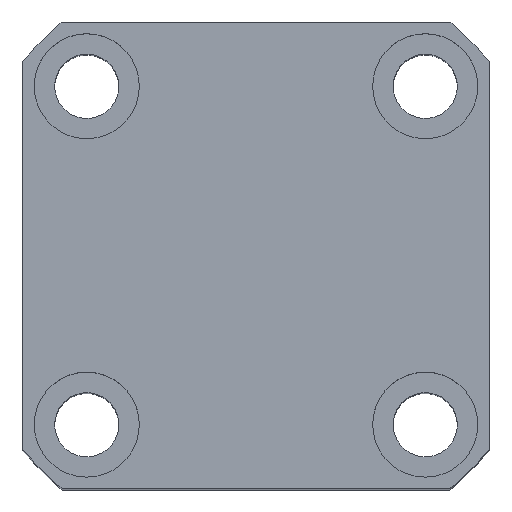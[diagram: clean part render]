
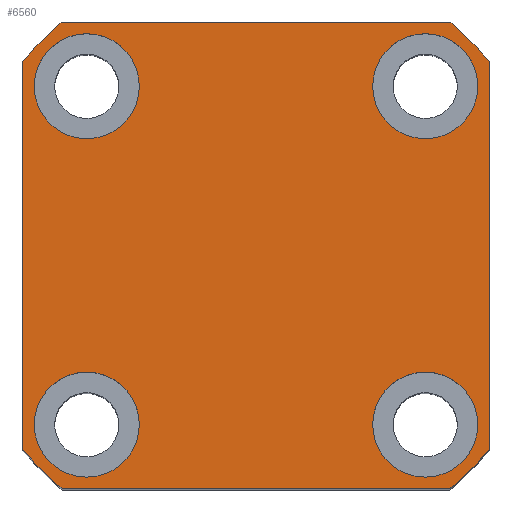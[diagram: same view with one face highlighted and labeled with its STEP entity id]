
A CAD part, top view. The second image highlights one B-rep face of the part: STEP entity #6560.
In plain terms, the highlighted planar face has unit normal (0, 0, 1).
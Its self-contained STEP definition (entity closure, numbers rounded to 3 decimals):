
#206 = CARTESIAN_POINT ( 'NONE',  ( 0., 0., 57.5 ) ) ;
#246 = DIRECTION ( 'NONE',  ( 0., 0., 1. ) ) ;
#478 = AXIS2_PLACEMENT_3D ( 'NONE', #13182, #2920, #1972 ) ;
#479 = CIRCLE ( 'NONE', #13220, 52. ) ;
#620 = FACE_BOUND ( 'NONE', #3268, .T. ) ;
#827 = DIRECTION ( 'NONE',  ( 0., 0., 1. ) ) ;
#836 = DIRECTION ( 'NONE',  ( 0., 1., 0. ) ) ;
#853 = EDGE_CURVE ( 'NONE', #4415, #10526, #5849, .T. ) ;
#887 = DIRECTION ( 'NONE',  ( 0., 0., 1. ) ) ;
#918 = CARTESIAN_POINT ( 'NONE',  ( -33.226, -40., 57.5 ) ) ;
#964 = AXIS2_PLACEMENT_3D ( 'NONE', #7793, #10047, #11201 ) ;
#1031 = DIRECTION ( 'NONE',  ( 1., 0., 0. ) ) ;
#1055 = DIRECTION ( 'NONE',  ( 0., 0., 1. ) ) ;
#1068 = ORIENTED_EDGE ( 'NONE', *, *, #9822, .T. ) ;
#1159 = CIRCLE ( 'NONE', #5074, 9. ) ;
#1192 = ORIENTED_EDGE ( 'NONE', *, *, #2466, .F. ) ;
#1413 = EDGE_CURVE ( 'NONE', #13089, #4244, #8016, .T. ) ;
#1620 = DIRECTION ( 'NONE',  ( 1., 0., 0. ) ) ;
#1632 = DIRECTION ( 'NONE',  ( 0., 0., 1. ) ) ;
#1638 = VERTEX_POINT ( 'NONE', #2425 ) ;
#1852 = ORIENTED_EDGE ( 'NONE', *, *, #14296, .T. ) ;
#1972 = DIRECTION ( 'NONE',  ( 1., 0., 0. ) ) ;
#2038 = CARTESIAN_POINT ( 'NONE',  ( 0., 0., 57.5 ) ) ;
#2052 = FACE_BOUND ( 'NONE', #6831, .T. ) ;
#2152 = CARTESIAN_POINT ( 'NONE',  ( -29., -29., 57.5 ) ) ;
#2164 = CARTESIAN_POINT ( 'NONE',  ( -40., 33.226, 57.5 ) ) ;
#2195 = DIRECTION ( 'NONE',  ( -1., 0., 0. ) ) ;
#2200 = AXIS2_PLACEMENT_3D ( 'NONE', #14472, #827, #5201 ) ;
#2319 = VECTOR ( 'NONE', #3401, 1000. ) ;
#2353 = VERTEX_POINT ( 'NONE', #3820 ) ;
#2425 = CARTESIAN_POINT ( 'NONE',  ( 40., 33.226, 57.5 ) ) ;
#2466 = EDGE_CURVE ( 'NONE', #3934, #13920, #3369, .T. ) ;
#2477 = EDGE_LOOP ( 'NONE', ( #9753, #13407 ) ) ;
#2491 = VECTOR ( 'NONE', #2195, 1000. ) ;
#2566 = EDGE_CURVE ( 'NONE', #4244, #13089, #11004, .T. ) ;
#2629 = CARTESIAN_POINT ( 'NONE',  ( -38., -29., 57.5 ) ) ;
#2656 = ORIENTED_EDGE ( 'NONE', *, *, #9541, .T. ) ;
#2660 = VERTEX_POINT ( 'NONE', #6199 ) ;
#2683 = AXIS2_PLACEMENT_3D ( 'NONE', #6195, #8611, #1620 ) ;
#2920 = DIRECTION ( 'NONE',  ( 0., 0., 1. ) ) ;
#2952 = CIRCLE ( 'NONE', #13380, 52. ) ;
#2963 = CARTESIAN_POINT ( 'NONE',  ( 20., -29., 57.5 ) ) ;
#3262 = DIRECTION ( 'NONE',  ( 1., 0., 0. ) ) ;
#3268 = EDGE_LOOP ( 'NONE', ( #3871, #4099 ) ) ;
#3308 = CIRCLE ( 'NONE', #5445, 9. ) ;
#3369 = CIRCLE ( 'NONE', #478, 9. ) ;
#3401 = DIRECTION ( 'NONE',  ( 1., 0., 0. ) ) ;
#3469 = DIRECTION ( 'NONE',  ( 1., 0., 0. ) ) ;
#3472 = DIRECTION ( 'NONE',  ( 1., 0., 0. ) ) ;
#3820 = CARTESIAN_POINT ( 'NONE',  ( -40., -33.226, 57.5 ) ) ;
#3871 = ORIENTED_EDGE ( 'NONE', *, *, #7553, .F. ) ;
#3915 = DIRECTION ( 'NONE',  ( 1., 0., 0. ) ) ;
#3934 = VERTEX_POINT ( 'NONE', #9306 ) ;
#4043 = CARTESIAN_POINT ( 'NONE',  ( -38., 29., 57.5 ) ) ;
#4099 = ORIENTED_EDGE ( 'NONE', *, *, #5889, .F. ) ;
#4119 = ORIENTED_EDGE ( 'NONE', *, *, #9160, .T. ) ;
#4244 = VERTEX_POINT ( 'NONE', #8466 ) ;
#4335 = VERTEX_POINT ( 'NONE', #918 ) ;
#4415 = VERTEX_POINT ( 'NONE', #10971 ) ;
#4545 = CARTESIAN_POINT ( 'NONE',  ( -33.226, -40., 57.5 ) ) ;
#4799 = AXIS2_PLACEMENT_3D ( 'NONE', #6782, #13684, #8047 ) ;
#5033 = CARTESIAN_POINT ( 'NONE',  ( 33.226, 40., 57.5 ) ) ;
#5070 = FACE_OUTER_BOUND ( 'NONE', #9198, .T. ) ;
#5074 = AXIS2_PLACEMENT_3D ( 'NONE', #7912, #9034, #10167 ) ;
#5100 = CARTESIAN_POINT ( 'NONE',  ( 29., -29., 57.5 ) ) ;
#5201 = DIRECTION ( 'NONE',  ( 1., 0., 0. ) ) ;
#5432 = FACE_BOUND ( 'NONE', #2477, .T. ) ;
#5445 = AXIS2_PLACEMENT_3D ( 'NONE', #2152, #1055, #10215 ) ;
#5463 = CARTESIAN_POINT ( 'NONE',  ( 0., 0., 57.5 ) ) ;
#5573 = CARTESIAN_POINT ( 'NONE',  ( -33.226, 40., 57.5 ) ) ;
#5849 = CIRCLE ( 'NONE', #13921, 52. ) ;
#5889 = EDGE_CURVE ( 'NONE', #12409, #2660, #3308, .T. ) ;
#5914 = EDGE_CURVE ( 'NONE', #9325, #2353, #7985, .T. ) ;
#6141 = VERTEX_POINT ( 'NONE', #11303 ) ;
#6151 = FACE_BOUND ( 'NONE', #12543, .T. ) ;
#6181 = EDGE_CURVE ( 'NONE', #9237, #9325, #2952, .T. ) ;
#6195 = CARTESIAN_POINT ( 'NONE',  ( 0., 0., 57.5 ) ) ;
#6199 = CARTESIAN_POINT ( 'NONE',  ( -20., -29., 57.5 ) ) ;
#6409 = CIRCLE ( 'NONE', #9667, 52. ) ;
#6522 = CARTESIAN_POINT ( 'NONE',  ( 40., 33.226, 57.5 ) ) ;
#6560 = ADVANCED_FACE ( 'NONE', ( #6151, #620, #2052, #5432, #5070 ), #13076, .T. ) ;
#6718 = DIRECTION ( 'NONE',  ( 0., 0., 1. ) ) ;
#6782 = CARTESIAN_POINT ( 'NONE',  ( -29., 29., 57.5 ) ) ;
#6831 = EDGE_LOOP ( 'NONE', ( #1192, #11923 ) ) ;
#6961 = CIRCLE ( 'NONE', #964, 9. ) ;
#7482 = AXIS2_PLACEMENT_3D ( 'NONE', #5100, #1632, #3915 ) ;
#7553 = EDGE_CURVE ( 'NONE', #2660, #12409, #1159, .T. ) ;
#7679 = LINE ( 'NONE', #6522, #10677 ) ;
#7793 = CARTESIAN_POINT ( 'NONE',  ( 29., -29., 57.5 ) ) ;
#7872 = EDGE_CURVE ( 'NONE', #2353, #4335, #6409, .T. ) ;
#7912 = CARTESIAN_POINT ( 'NONE',  ( -29., -29., 57.5 ) ) ;
#7985 = LINE ( 'NONE', #8989, #12419 ) ;
#8016 = CIRCLE ( 'NONE', #2200, 9. ) ;
#8047 = DIRECTION ( 'NONE',  ( 1., 0., 0. ) ) ;
#8218 = LINE ( 'NONE', #5573, #2491 ) ;
#8431 = AXIS2_PLACEMENT_3D ( 'NONE', #11181, #6718, #3262 ) ;
#8466 = CARTESIAN_POINT ( 'NONE',  ( 20., 29., 57.5 ) ) ;
#8611 = DIRECTION ( 'NONE',  ( 0., 0., 1. ) ) ;
#8630 = ORIENTED_EDGE ( 'NONE', *, *, #5914, .T. ) ;
#8989 = CARTESIAN_POINT ( 'NONE',  ( -40., 33.226, 57.5 ) ) ;
#9034 = DIRECTION ( 'NONE',  ( 0., 0., 1. ) ) ;
#9086 = DIRECTION ( 'NONE',  ( 0., -1., 0. ) ) ;
#9160 = EDGE_CURVE ( 'NONE', #4335, #4415, #13006, .T. ) ;
#9180 = ORIENTED_EDGE ( 'NONE', *, *, #12531, .F. ) ;
#9198 = EDGE_LOOP ( 'NONE', ( #1852, #2656, #14122, #8630, #11762, #4119, #12733, #1068 ) ) ;
#9237 = VERTEX_POINT ( 'NONE', #10114 ) ;
#9306 = CARTESIAN_POINT ( 'NONE',  ( -20., 29., 57.5 ) ) ;
#9325 = VERTEX_POINT ( 'NONE', #2164 ) ;
#9414 = CARTESIAN_POINT ( 'NONE',  ( 38., 29., 57.5 ) ) ;
#9541 = EDGE_CURVE ( 'NONE', #11326, #9237, #8218, .T. ) ;
#9615 = EDGE_CURVE ( 'NONE', #6141, #14506, #6961, .T. ) ;
#9667 = AXIS2_PLACEMENT_3D ( 'NONE', #11347, #887, #1031 ) ;
#9753 = ORIENTED_EDGE ( 'NONE', *, *, #1413, .F. ) ;
#9822 = EDGE_CURVE ( 'NONE', #10526, #1638, #7679, .T. ) ;
#9999 = DIRECTION ( 'NONE',  ( 0., 0., 1. ) ) ;
#10047 = DIRECTION ( 'NONE',  ( 0., 0., 1. ) ) ;
#10114 = CARTESIAN_POINT ( 'NONE',  ( -33.226, 40., 57.5 ) ) ;
#10123 = ORIENTED_EDGE ( 'NONE', *, *, #9615, .F. ) ;
#10167 = DIRECTION ( 'NONE',  ( 1., 0., 0. ) ) ;
#10215 = DIRECTION ( 'NONE',  ( 1., 0., 0. ) ) ;
#10526 = VERTEX_POINT ( 'NONE', #10530 ) ;
#10530 = CARTESIAN_POINT ( 'NONE',  ( 40., -33.226, 57.5 ) ) ;
#10677 = VECTOR ( 'NONE', #836, 1000. ) ;
#10830 = CIRCLE ( 'NONE', #7482, 9. ) ;
#10971 = CARTESIAN_POINT ( 'NONE',  ( 33.226, -40., 57.5 ) ) ;
#10997 = DIRECTION ( 'NONE',  ( 0., 0., 1. ) ) ;
#11004 = CIRCLE ( 'NONE', #8431, 9. ) ;
#11181 = CARTESIAN_POINT ( 'NONE',  ( 29., 29., 57.5 ) ) ;
#11201 = DIRECTION ( 'NONE',  ( 1., 0., 0. ) ) ;
#11202 = DIRECTION ( 'NONE',  ( 1., 0., 0. ) ) ;
#11303 = CARTESIAN_POINT ( 'NONE',  ( 38., -29., 57.5 ) ) ;
#11326 = VERTEX_POINT ( 'NONE', #5033 ) ;
#11347 = CARTESIAN_POINT ( 'NONE',  ( 0., 0., 57.5 ) ) ;
#11762 = ORIENTED_EDGE ( 'NONE', *, *, #7872, .T. ) ;
#11923 = ORIENTED_EDGE ( 'NONE', *, *, #13534, .F. ) ;
#12409 = VERTEX_POINT ( 'NONE', #2629 ) ;
#12419 = VECTOR ( 'NONE', #9086, 1000. ) ;
#12531 = EDGE_CURVE ( 'NONE', #14506, #6141, #10830, .T. ) ;
#12543 = EDGE_LOOP ( 'NONE', ( #10123, #9180 ) ) ;
#12733 = ORIENTED_EDGE ( 'NONE', *, *, #853, .T. ) ;
#13006 = LINE ( 'NONE', #4545, #2319 ) ;
#13076 = PLANE ( 'NONE',  #2683 ) ;
#13089 = VERTEX_POINT ( 'NONE', #9414 ) ;
#13182 = CARTESIAN_POINT ( 'NONE',  ( -29., 29., 57.5 ) ) ;
#13220 = AXIS2_PLACEMENT_3D ( 'NONE', #206, #246, #3472 ) ;
#13380 = AXIS2_PLACEMENT_3D ( 'NONE', #2038, #9999, #3469 ) ;
#13407 = ORIENTED_EDGE ( 'NONE', *, *, #2566, .F. ) ;
#13534 = EDGE_CURVE ( 'NONE', #13920, #3934, #14578, .T. ) ;
#13684 = DIRECTION ( 'NONE',  ( 0., 0., 1. ) ) ;
#13920 = VERTEX_POINT ( 'NONE', #4043 ) ;
#13921 = AXIS2_PLACEMENT_3D ( 'NONE', #5463, #10997, #11202 ) ;
#14122 = ORIENTED_EDGE ( 'NONE', *, *, #6181, .T. ) ;
#14296 = EDGE_CURVE ( 'NONE', #1638, #11326, #479, .T. ) ;
#14472 = CARTESIAN_POINT ( 'NONE',  ( 29., 29., 57.5 ) ) ;
#14506 = VERTEX_POINT ( 'NONE', #2963 ) ;
#14578 = CIRCLE ( 'NONE', #4799, 9. ) ;
